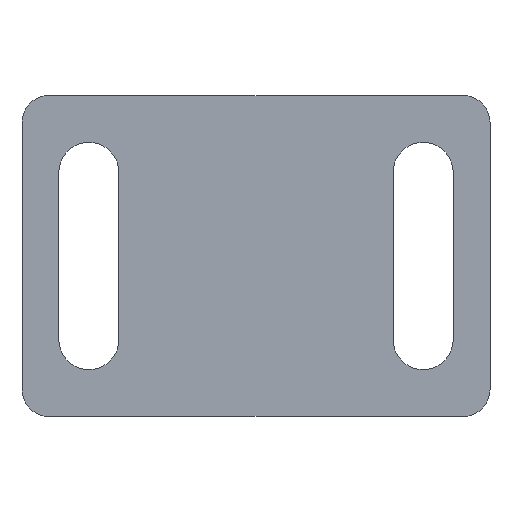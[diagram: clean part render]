
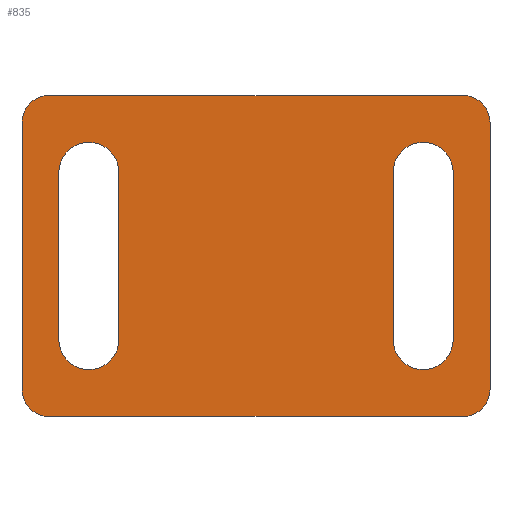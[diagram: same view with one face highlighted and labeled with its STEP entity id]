
A CAD part, front view. The second image highlights one B-rep face of the part: STEP entity #835.
In plain terms, the highlighted planar face has unit normal (0, -1, 0).
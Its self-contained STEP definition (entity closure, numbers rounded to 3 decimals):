
#18=FACE_BOUND('',#148,.T.);
#19=FACE_BOUND('',#149,.T.);
#32=CIRCLE('',#890,2.25);
#33=CIRCLE('',#893,2.25);
#34=CIRCLE('',#896,2.25);
#35=CIRCLE('',#899,2.25);
#36=CIRCLE('',#901,2.);
#45=CIRCLE('',#913,2.);
#46=CIRCLE('',#916,2.);
#47=CIRCLE('',#919,2.);
#101=FACE_OUTER_BOUND('',#147,.T.);
#147=EDGE_LOOP('',(#719,#720,#721,#722,#723,#724,#725,#726));
#148=EDGE_LOOP('',(#727,#728,#729,#730));
#149=EDGE_LOOP('',(#731,#732,#733,#734));
#178=LINE('',#1250,#266);
#182=LINE('',#1260,#270);
#186=LINE('',#1269,#274);
#188=LINE('',#1275,#276);
#193=LINE('',#1292,#281);
#205=LINE('',#1330,#293);
#208=LINE('',#1339,#296);
#233=LINE('',#1397,#321);
#266=VECTOR('',#1006,10.);
#270=VECTOR('',#1016,10.);
#274=VECTOR('',#1026,10.);
#276=VECTOR('',#1034,10.);
#281=VECTOR('',#1051,10.);
#293=VECTOR('',#1085,10.);
#296=VECTOR('',#1094,10.);
#321=VECTOR('',#1149,10.);
#359=VERTEX_POINT('',#1247);
#360=VERTEX_POINT('',#1249);
#361=VERTEX_POINT('',#1253);
#362=VERTEX_POINT('',#1257);
#363=VERTEX_POINT('',#1259);
#364=VERTEX_POINT('',#1263);
#365=VERTEX_POINT('',#1267);
#366=VERTEX_POINT('',#1273);
#367=VERTEX_POINT('',#1279);
#368=VERTEX_POINT('',#1280);
#372=VERTEX_POINT('',#1290);
#386=VERTEX_POINT('',#1324);
#387=VERTEX_POINT('',#1328);
#388=VERTEX_POINT('',#1332);
#389=VERTEX_POINT('',#1333);
#390=VERTEX_POINT('',#1338);
#446=EDGE_CURVE('',#360,#359,#178,.T.);
#449=EDGE_CURVE('',#359,#361,#32,.T.);
#451=EDGE_CURVE('',#363,#362,#182,.T.);
#454=EDGE_CURVE('',#362,#364,#33,.T.);
#456=EDGE_CURVE('',#361,#365,#186,.T.);
#457=EDGE_CURVE('',#365,#360,#34,.T.);
#459=EDGE_CURVE('',#364,#366,#188,.T.);
#460=EDGE_CURVE('',#366,#363,#35,.T.);
#461=EDGE_CURVE('',#367,#368,#36,.T.);
#467=EDGE_CURVE('',#367,#372,#193,.T.);
#484=EDGE_CURVE('',#386,#372,#45,.T.);
#487=EDGE_CURVE('',#386,#387,#205,.T.);
#488=EDGE_CURVE('',#388,#389,#46,.T.);
#491=EDGE_CURVE('',#390,#389,#208,.T.);
#493=EDGE_CURVE('',#390,#387,#47,.T.);
#521=EDGE_CURVE('',#388,#368,#233,.T.);
#719=ORIENTED_EDGE('',*,*,#461,.F.);
#720=ORIENTED_EDGE('',*,*,#467,.T.);
#721=ORIENTED_EDGE('',*,*,#484,.F.);
#722=ORIENTED_EDGE('',*,*,#487,.T.);
#723=ORIENTED_EDGE('',*,*,#493,.F.);
#724=ORIENTED_EDGE('',*,*,#491,.T.);
#725=ORIENTED_EDGE('',*,*,#488,.F.);
#726=ORIENTED_EDGE('',*,*,#521,.T.);
#727=ORIENTED_EDGE('',*,*,#446,.T.);
#728=ORIENTED_EDGE('',*,*,#449,.T.);
#729=ORIENTED_EDGE('',*,*,#456,.T.);
#730=ORIENTED_EDGE('',*,*,#457,.T.);
#731=ORIENTED_EDGE('',*,*,#451,.T.);
#732=ORIENTED_EDGE('',*,*,#454,.T.);
#733=ORIENTED_EDGE('',*,*,#459,.T.);
#734=ORIENTED_EDGE('',*,*,#460,.T.);
#792=PLANE('',#933);
#835=ADVANCED_FACE('',(#101,#18,#19),#792,.T.);
#890=AXIS2_PLACEMENT_3D('',#1255,#1011,#1012);
#893=AXIS2_PLACEMENT_3D('',#1265,#1021,#1022);
#896=AXIS2_PLACEMENT_3D('',#1271,#1029,#1030);
#899=AXIS2_PLACEMENT_3D('',#1277,#1037,#1038);
#901=AXIS2_PLACEMENT_3D('',#1281,#1041,#1042);
#913=AXIS2_PLACEMENT_3D('',#1325,#1079,#1080);
#916=AXIS2_PLACEMENT_3D('',#1334,#1088,#1089);
#919=AXIS2_PLACEMENT_3D('',#1342,#1098,#1099);
#933=AXIS2_PLACEMENT_3D('',#1398,#1150,#1151);
#1006=DIRECTION('',(0.,0.,-1.));
#1011=DIRECTION('center_axis',(0.,1.,0.));
#1012=DIRECTION('ref_axis',(1.,0.,0.));
#1016=DIRECTION('',(0.,0.,-1.));
#1021=DIRECTION('center_axis',(0.,1.,0.));
#1022=DIRECTION('ref_axis',(1.,0.,0.));
#1026=DIRECTION('',(0.,0.,1.));
#1029=DIRECTION('center_axis',(0.,1.,0.));
#1030=DIRECTION('ref_axis',(-1.,0.,0.));
#1034=DIRECTION('',(0.,0.,1.));
#1037=DIRECTION('center_axis',(0.,1.,0.));
#1038=DIRECTION('ref_axis',(-1.,0.,0.));
#1041=DIRECTION('center_axis',(0.,1.,0.));
#1042=DIRECTION('ref_axis',(-0.707,0.,-0.707));
#1051=DIRECTION('',(1.,0.,0.));
#1079=DIRECTION('center_axis',(0.,1.,0.));
#1080=DIRECTION('ref_axis',(0.707,0.,-0.707));
#1085=DIRECTION('',(0.,0.,1.));
#1088=DIRECTION('center_axis',(0.,1.,0.));
#1089=DIRECTION('ref_axis',(-0.707,0.,0.707));
#1094=DIRECTION('',(-1.,0.,0.));
#1098=DIRECTION('center_axis',(0.,1.,0.));
#1099=DIRECTION('ref_axis',(0.707,0.,0.707));
#1149=DIRECTION('',(0.,0.,-1.));
#1150=DIRECTION('center_axis',(0.,-1.,0.));
#1151=DIRECTION('ref_axis',(0.,0.,-1.));
#1247=CARTESIAN_POINT('',(14.75,-9.,-6.25));
#1249=CARTESIAN_POINT('',(14.75,-9.,6.25));
#1250=CARTESIAN_POINT('',(14.75,-9.,-3.125));
#1253=CARTESIAN_POINT('',(10.25,-9.,-6.25));
#1255=CARTESIAN_POINT('Origin',(12.5,-9.,-6.25));
#1257=CARTESIAN_POINT('',(-10.25,-9.,-6.25));
#1259=CARTESIAN_POINT('',(-10.25,-9.,6.25));
#1260=CARTESIAN_POINT('',(-10.25,-9.,-3.125));
#1263=CARTESIAN_POINT('',(-14.75,-9.,-6.25));
#1265=CARTESIAN_POINT('Origin',(-12.5,-9.,-6.25));
#1267=CARTESIAN_POINT('',(10.25,-9.,6.25));
#1269=CARTESIAN_POINT('',(10.25,-9.,3.125));
#1271=CARTESIAN_POINT('Origin',(12.5,-9.,6.25));
#1273=CARTESIAN_POINT('',(-14.75,-9.,6.25));
#1275=CARTESIAN_POINT('',(-14.75,-9.,3.125));
#1277=CARTESIAN_POINT('Origin',(-12.5,-9.,6.25));
#1279=CARTESIAN_POINT('',(-15.5,-9.,-12.));
#1280=CARTESIAN_POINT('',(-17.5,-9.,-10.));
#1281=CARTESIAN_POINT('Origin',(-15.5,-9.,-10.));
#1290=CARTESIAN_POINT('',(15.5,-9.,-12.));
#1292=CARTESIAN_POINT('',(-17.5,-9.,-12.));
#1324=CARTESIAN_POINT('',(17.5,-9.,-10.));
#1325=CARTESIAN_POINT('Origin',(15.5,-9.,-10.));
#1328=CARTESIAN_POINT('',(17.5,-9.,10.));
#1330=CARTESIAN_POINT('',(17.5,-9.,-12.));
#1332=CARTESIAN_POINT('',(-17.5,-9.,10.));
#1333=CARTESIAN_POINT('',(-15.5,-9.,12.));
#1334=CARTESIAN_POINT('Origin',(-15.5,-9.,10.));
#1338=CARTESIAN_POINT('',(15.5,-9.,12.));
#1339=CARTESIAN_POINT('',(17.5,-9.,12.));
#1342=CARTESIAN_POINT('Origin',(15.5,-9.,10.));
#1397=CARTESIAN_POINT('',(-17.5,-9.,12.));
#1398=CARTESIAN_POINT('Origin',(0.,-9.,0.));
